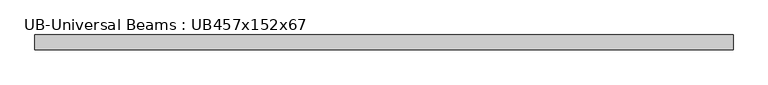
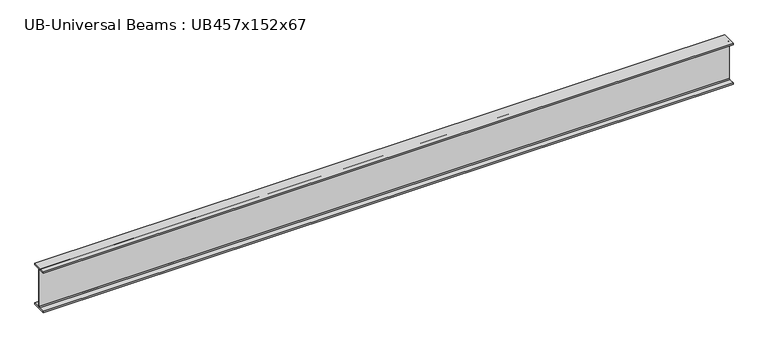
"""IFC4 building model written with IfcOpenShell, lengths in millimetres: beam geometry, UB-Universal Beams : UB457x152x67."""

from ifc_helpers import new_model, si_unit, point, frame, frame_2d, origin, place, context, project, spatial, polyline, circle_curve, trimmed, segment, composite_curve, outline, extrude, source, transform, mapped, element, save


def ub_universal_beams_ub457x152x67_c54337ad(model_context):
    return source(origin(), model_context, "Body", "SweptSolid", [
        extrude(outline(composite_curve([segment(polyline([(76.9, -214.0), (76.9, -229.0), (-76.9, -229.0), (-76.9, -214.0), (-14.7, -214.0)]), True, "CONTINUOUS"), segment(trimmed(circle_curve(frame_2d((-14.7, -203.8)), 10.2), [point((-14.7, -214.0))], [point((-4.5, -203.8))], True, "CARTESIAN"), True, "CONTINUOUS"), segment(polyline([(-4.5, -203.8), (-4.5, 203.8)]), True, "CONTINUOUS"), segment(trimmed(circle_curve(frame_2d((-14.7, 203.8)), 10.2), [point((-4.5, 203.8))], [point((-14.7, 214.0))], True, "CARTESIAN"), True, "CONTINUOUS"), segment(polyline([(-14.7, 214.0), (-76.9, 214.0), (-76.9, 229.0), (76.9, 229.0), (76.9, 214.0), (14.7, 214.0)]), True, "CONTINUOUS"), segment(trimmed(circle_curve(frame_2d((14.7, 203.8)), 10.2), [point((14.7, 214.0))], [point((4.5, 203.8))], True, "CARTESIAN"), True, "CONTINUOUS"), segment(polyline([(4.5, 203.8), (4.5, -203.8)]), True, "CONTINUOUS"), segment(trimmed(circle_curve(frame_2d((14.7, -203.8)), 10.2), [point((4.5, -203.8))], [point((14.7, -214.0))], True, "CARTESIAN"), True, "CONTINUOUS"), segment(polyline([(14.7, -214.0), (76.9, -214.0)]), True, "CONTINUOUS")], self_intersect=False)), frame((-3660.4, 0.0, 0.0), z_axis=(1.0, 0.0, 0.0), x_axis=(0.0, 1.0, 0.0)), (0.0, 0.0, 1.0), 7290.7),
    ])


if __name__ == "__main__":
    model = new_model("IFC4")
    model_context = context("Model", 3, world=origin())
    ifc_project = project(units=[si_unit("LENGTHUNIT", "METRE", prefix="MILLI")], contexts=[model_context])
    site = spatial("IfcSite", under=ifc_project)
    building = spatial("IfcBuilding", under=site)
    placement = place(None, origin())
    ub_universal_beams_ub457x152x67_shape = ub_universal_beams_ub457x152x67_c54337ad(model_context)
    element("IfcBeam", 1, ObjectType="UB-Universal Beams : UB457x152x67", at=placement, inside=building, context=model_context, shape_type="MappedRepresentation", body=[
        mapped(ub_universal_beams_ub457x152x67_shape, transform((0.0, 0.0, 0.0), x_axis=(1.0, 0.0, 0.0), y_axis=(0.0, 1.0, 0.0), z_axis=(0.0, 0.0, 1.0))),
    ])
    save(model, "model.ifc")
